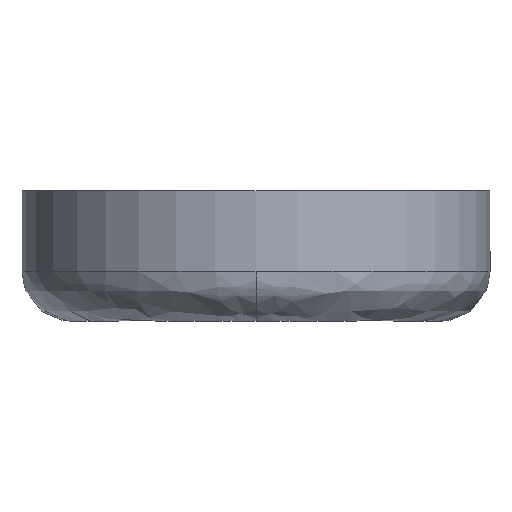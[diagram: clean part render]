
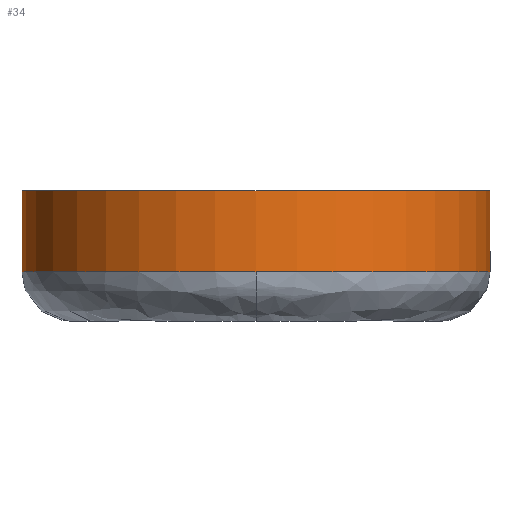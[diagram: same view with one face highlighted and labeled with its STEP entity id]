
A CAD part, front view. The second image highlights one B-rep face of the part: STEP entity #34.
In plain terms, the highlighted cylindrical face has radius 4.636 mm (diameter 9.271 mm), a partial arc.
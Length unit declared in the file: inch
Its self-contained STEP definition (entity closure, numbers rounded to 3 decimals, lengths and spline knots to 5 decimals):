
#6 = DIRECTION ( 'NONE',  ( 0., 0., -1. ) ) ;
#25 = AXIS2_PLACEMENT_3D ( 'NONE', #286, #283, #480 ) ;
#34 = ADVANCED_FACE ( 'NONE', ( #362 ), #95, .T. ) ;
#35 = DIRECTION ( 'NONE',  ( 0., 0., -1. ) ) ;
#40 = CARTESIAN_POINT ( 'NONE',  ( -0.25, 2.8175, 12.49979 ) ) ;
#57 = VERTEX_POINT ( 'NONE', #108 ) ;
#83 = ORIENTED_EDGE ( 'NONE', *, *, #439, .T. ) ;
#85 = DIRECTION ( 'NONE',  ( 0., 0., -1. ) ) ;
#95 = CYLINDRICAL_SURFACE ( 'NONE', #494, 0.1825 ) ;
#97 = ORIENTED_EDGE ( 'NONE', *, *, #158, .F. ) ;
#108 = CARTESIAN_POINT ( 'NONE',  ( -0.0675, 3., 12.56304 ) ) ;
#121 = ORIENTED_EDGE ( 'NONE', *, *, #122, .F. ) ;
#122 = EDGE_CURVE ( 'NONE', #57, #197, #302, .T. ) ;
#132 = VECTOR ( 'NONE', #291, 39.37008 ) ;
#133 = CARTESIAN_POINT ( 'NONE',  ( -0.4325, 3., 12.49979 ) ) ;
#134 = EDGE_LOOP ( 'NONE', ( #121, #388, #83, #97, #177 ) ) ;
#139 = CARTESIAN_POINT ( 'NONE',  ( -0.4325, 3., 12.51991 ) ) ;
#158 = EDGE_CURVE ( 'NONE', #224, #327, #369, .T. ) ;
#163 = CARTESIAN_POINT ( 'NONE',  ( -0.25, 3., 12.51991 ) ) ;
#166 = AXIS2_PLACEMENT_3D ( 'NONE', #410, #499, #368 ) ;
#177 = ORIENTED_EDGE ( 'NONE', *, *, #311, .F. ) ;
#181 = CARTESIAN_POINT ( 'NONE',  ( -0.0675, 3., 12.49979 ) ) ;
#197 = VERTEX_POINT ( 'NONE', #181 ) ;
#204 = VERTEX_POINT ( 'NONE', #333 ) ;
#214 = AXIS2_PLACEMENT_3D ( 'NONE', #433, #85, #229 ) ;
#224 = VERTEX_POINT ( 'NONE', #40 ) ;
#229 = DIRECTION ( 'NONE',  ( 0., 1., 0. ) ) ;
#258 = CARTESIAN_POINT ( 'NONE',  ( -0.0675, 3., 12.51991 ) ) ;
#283 = DIRECTION ( 'NONE',  ( 0., 0., -1. ) ) ;
#286 = CARTESIAN_POINT ( 'NONE',  ( -0.25, 3., 12.56304 ) ) ;
#291 = DIRECTION ( 'NONE',  ( 0., 0., -1. ) ) ;
#302 = LINE ( 'NONE', #258, #376 ) ;
#311 = EDGE_CURVE ( 'NONE', #197, #224, #322, .T. ) ;
#322 = CIRCLE ( 'NONE', #214, 0.1825 ) ;
#327 = VERTEX_POINT ( 'NONE', #133 ) ;
#333 = CARTESIAN_POINT ( 'NONE',  ( -0.4325, 3., 12.56304 ) ) ;
#362 = FACE_OUTER_BOUND ( 'NONE', #134, .T. ) ;
#368 = DIRECTION ( 'NONE',  ( 0., 1., 0. ) ) ;
#369 = CIRCLE ( 'NONE', #166, 0.1825 ) ;
#376 = VECTOR ( 'NONE', #35, 39.37008 ) ;
#379 = EDGE_CURVE ( 'NONE', #57, #204, #462, .T. ) ;
#388 = ORIENTED_EDGE ( 'NONE', *, *, #379, .T. ) ;
#410 = CARTESIAN_POINT ( 'NONE',  ( -0.25, 3., 12.49979 ) ) ;
#433 = CARTESIAN_POINT ( 'NONE',  ( -0.25, 3., 12.49979 ) ) ;
#439 = EDGE_CURVE ( 'NONE', #204, #327, #475, .T. ) ;
#442 = DIRECTION ( 'NONE',  ( -1., 0., 0. ) ) ;
#462 = CIRCLE ( 'NONE', #25, 0.1825 ) ;
#475 = LINE ( 'NONE', #139, #132 ) ;
#480 = DIRECTION ( 'NONE',  ( -1., 0., 0. ) ) ;
#494 = AXIS2_PLACEMENT_3D ( 'NONE', #163, #6, #442 ) ;
#499 = DIRECTION ( 'NONE',  ( 0., 0., -1. ) ) ;
